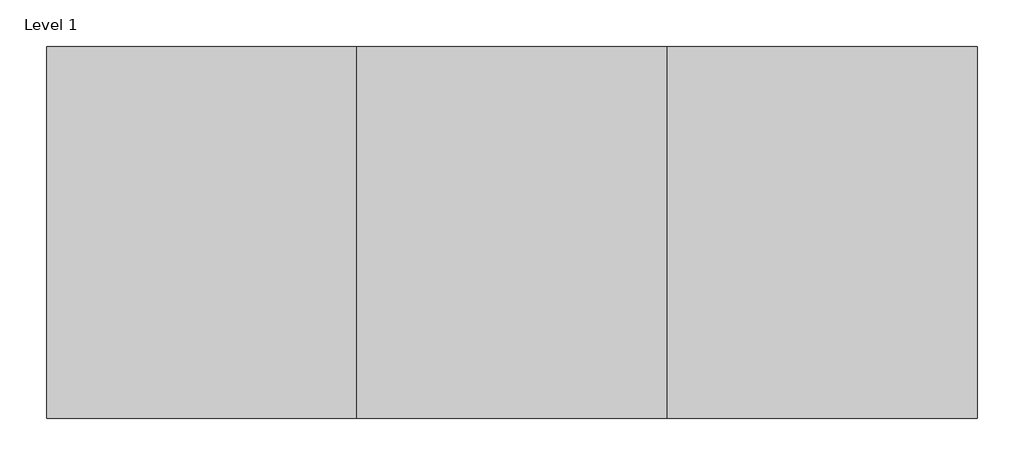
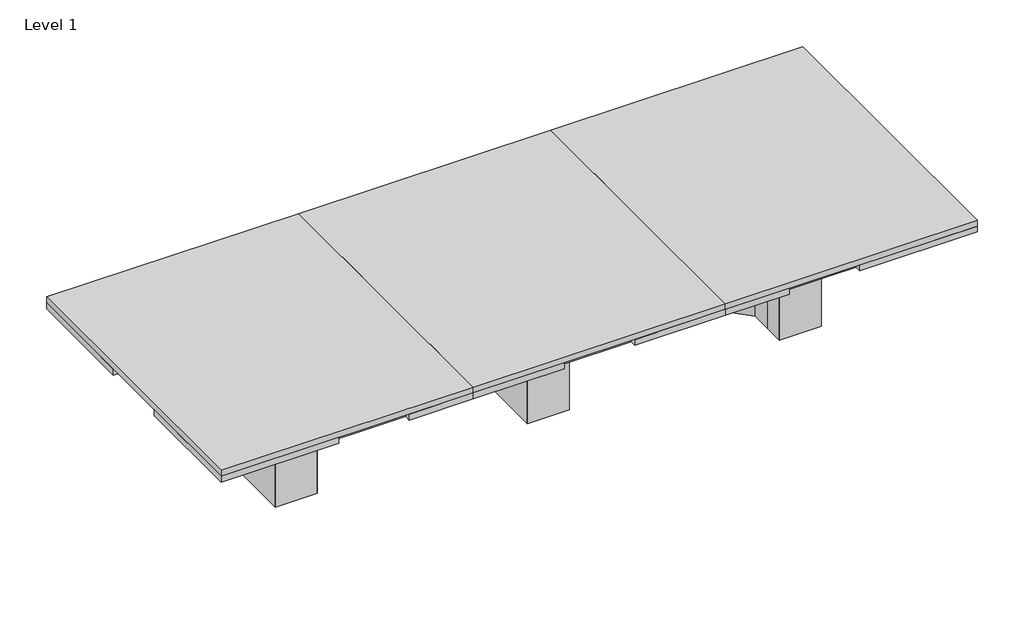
# One storey, incomplete: 8 proxies.
"""IFC4 building model written with IfcOpenShell, lengths in millimetres."""

from ifc_helpers import new_model, si_unit, origin, place, context, project, spatial, transform, mapped, element, save
from components import generic_models_4fed03f8, generic_models_e65374a2, generic_models_a2567655, generic_models_61f2ea61

model = new_model("IFC4")

# Units and contexts
model_context = context("Model", 3, world=origin())
ifc_project = project(units=[si_unit("LENGTHUNIT", "METRE", prefix="MILLI")], contexts=[model_context])

# Site, building, storey
site = spatial("IfcSite", under=ifc_project)
building = spatial("IfcBuilding", under=site)
storey = spatial("IfcBuildingStorey", under=building, Name="Level 1", Elevation=0.0)

# Proxies
placement = place(None, origin())
generic_models_shape = generic_models_4fed03f8(model_context)
element("IfcBuildingElementProxy", 1, Name="FOUNDATION^TABLE 7_POWER DRAWERS-KEEL SOLID", ObjectType="FOUNDATION^TABLE 7_POWER DRAWERS-KEEL SOLID", at=placement, inside=storey, context=model_context, shape_type="MappedRepresentation", body=[
    mapped(generic_models_shape, transform((679.45, -1238.25, -88.9), x_axis=(1.0, 0.0, 0.0), y_axis=(0.0, 0.0, 1.0), z_axis=(0.0, -1.0, 0.0))),
])
element("IfcBuildingElementProxy", 2, Name="FOUNDATION^TABLE 7_POWER DRAWERS-KEEL SOLID", ObjectType="FOUNDATION^TABLE 7_POWER DRAWERS-KEEL SOLID", at=placement, inside=storey, context=model_context, shape_type="MappedRepresentation", body=[
    mapped(generic_models_shape, transform((679.45, -558.8, -88.9), x_axis=(1.0, 0.0, 0.0), y_axis=(0.0, 0.0, 1.0), z_axis=(0.0, -1.0, 0.0))),
])
element("IfcBuildingElementProxy", 3, Name="FOUNDATION^TABLE 7_POWER DRAWERS-KEEL SOLID", ObjectType="FOUNDATION^TABLE 7_POWER DRAWERS-KEEL SOLID", at=placement, inside=storey, context=model_context, shape_type="MappedRepresentation", body=[
    mapped(generic_models_shape, transform((2286.0, -558.8, -88.9), x_axis=(1.0, 0.0, 0.0), y_axis=(0.0, 0.0, 1.0), z_axis=(0.0, -1.0, 0.0))),
])
element("IfcBuildingElementProxy", 4, Name="FOUNDATION^TABLE 7_POWER DRAWERS-KEEL SOLID", ObjectType="FOUNDATION^TABLE 7_POWER DRAWERS-KEEL SOLID", at=placement, inside=storey, context=model_context, shape_type="MappedRepresentation", body=[
    mapped(generic_models_shape, transform((2286.0, -1238.25, -88.9), x_axis=(1.0, 0.0, 0.0), y_axis=(0.0, 0.0, 1.0), z_axis=(0.0, -1.0, 0.0))),
])
generic_models_2_shape = generic_models_e65374a2(model_context)
element("IfcBuildingElementProxy", 5, Name="CCN^STANDARD_10X30 PAINTED CENTER BASE-ASSEMBLY", ObjectType="CCN^STANDARD_10X30 PAINTED CENTER BASE-ASSEMBLY", at=placement, inside=storey, context=model_context, shape_type="MappedRepresentation", body=[
    mapped(generic_models_2_shape, transform((2413.0, -1295.4, -704.85), x_axis=(0.0, 1.0, 0.0), y_axis=(0.0, 0.0, 1.0), z_axis=(1.0, 0.0, 0.0))),
])
generic_models_3_shape = generic_models_a2567655(model_context)
element("IfcBuildingElementProxy", 6, Name="FOUNDATION^TABLE 7_10X30 PAINTED END BASE-ASSEMBLY", ObjectType="FOUNDATION^TABLE 7_10X30 PAINTED END BASE-ASSEMBLY", at=placement, inside=storey, context=model_context, shape_type="MappedRepresentation", body=[
    mapped(generic_models_3_shape, transform((889.0, -1295.4, -704.85), x_axis=(0.0, 1.0, 0.0), y_axis=(0.0, 0.0, 1.0), z_axis=(1.0, 0.0, 0.0))),
])
element("IfcBuildingElementProxy", 7, Name="FOUNDATION^TABLE 7_10X30 PAINTED END BASE-ASSEMBLY", ObjectType="FOUNDATION^TABLE 7_10X30 PAINTED END BASE-ASSEMBLY", at=placement, inside=storey, context=model_context, shape_type="MappedRepresentation", body=[
    mapped(generic_models_3_shape, transform((3683.0, -533.4, -704.85), x_axis=(0.0, -1.0, 0.0), y_axis=(0.0, 0.0, 1.0), z_axis=(-1.0, 0.0, 0.0))),
])
generic_models_4_shape = generic_models_61f2ea61(model_context)
element("IfcBuildingElementProxy", 8, Name="FOUNDATION^TABLE 7_POWER DRAWERS-TOPS SOLID", ObjectType="FOUNDATION^TABLE 7_POWER DRAWERS-TOPS SOLID", at=placement, inside=storey, context=model_context, shape_type="MappedRepresentation", body=[
    mapped(generic_models_4_shape, transform((0.0, -1828.8, 38.1), x_axis=(1.0, 0.0, 0.0), y_axis=(0.0, 0.0, 1.0), z_axis=(0.0, -1.0, 0.0))),
])

save(model, "model.ifc")
